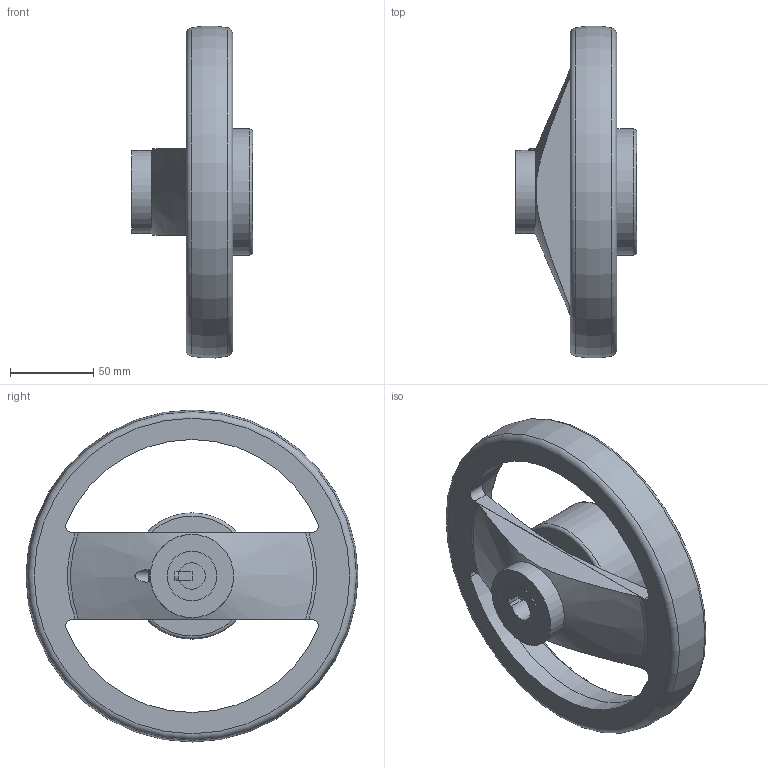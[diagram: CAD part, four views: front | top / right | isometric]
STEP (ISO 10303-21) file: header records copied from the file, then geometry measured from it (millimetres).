
FILE_DESCRIPTION( ( 'STEP AP203' ), '1' );
FILE_NAME( 'C:/Temp/Ganter_Step_05_03_2020/data/1_4/gn_522_8/gn_522_8_k/gn_522_8_k_a/Spoked handwheel GN 522.8-200-K16-A.stp', '2020-03-05T10:53:32', ( 'License CC BY-ND 4.0' ), ( 'CADENAS' ), ' ', 'PARTsolutions', ' ' );
FILE_SCHEMA( ( 'CONFIG_CONTROL_DESIGN' ) );
Length unit declared in the file: millimetre
Products named in the file (1): _Spoked handwheel GN 522.8-200-K16-A
Bounding box: 73 x 199.73 x 199.73 mm (x, y, z)
Volume: 466682.3 mm3; surface area: 96654.1 mm2
Topology: 1 solids, 1 shells, 72 faces, 169 edges, 110 vertices
Faces by surface type: plane 35, cylinder 23, torus 8, cone 6
Full cylindrical faces by diameter (mm): 6 x4, 8 x1, 30 x1, 50 x1, 67 x1, 68.8 x1, 76 x1
Entity records: 2278 total; most frequent: CARTESIAN_POINT 697, DIRECTION 322, ORIENTED_EDGE 278, EDGE_CURVE 139, AXIS2_PLACEMENT_3D 132, EDGE_LOOP 110, VERTEX_POINT 101, FACE_OUTER_BOUND 88
